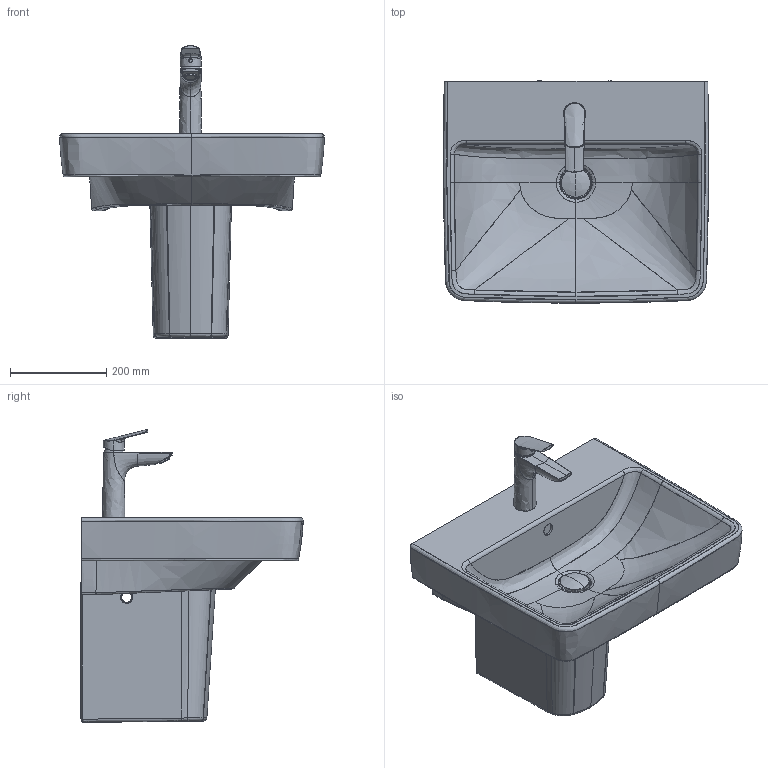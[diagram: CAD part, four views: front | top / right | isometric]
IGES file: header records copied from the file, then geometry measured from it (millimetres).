
Global section: file name: d:\users\matthias.isele\Desktop\Planungsdaten_erstellen\Duravit_No_1\237555\3D\237555_085845.igs; native system: Rhinoceros ( Sep 13 2016 ); preprocessor: Trout Lake IGES 012 Sep 13 2016; date: 211012.113108; units: millimetre
Bounding box: 550.23 x 461.56 x 607.93 mm (x, y, z)
Surface area: 1444333.8 mm2 (no closed solid volume)
Topology: 0 solids, 0 shells, 563 faces, 5621 edges, 5616 vertices
Faces by surface type: bspline 563
